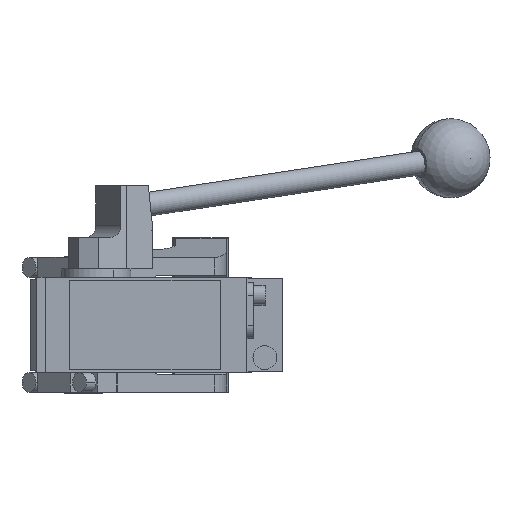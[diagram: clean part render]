
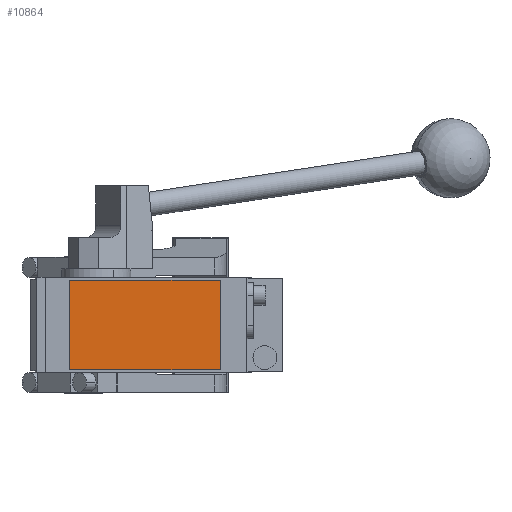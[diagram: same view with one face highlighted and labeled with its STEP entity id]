
A CAD part, front view. The second image highlights one B-rep face of the part: STEP entity #10864.
In plain terms, the highlighted planar face has unit normal (0, -1, 0).
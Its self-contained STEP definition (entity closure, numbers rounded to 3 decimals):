
#549 = CARTESIAN_POINT ( 'NONE',  ( 0., -280.5, 0. ) ) ;
#561 = ORIENTED_EDGE ( 'NONE', *, *, #14549, .T. ) ;
#624 = DIRECTION ( 'NONE',  ( 0., -1., 0. ) ) ;
#667 = CARTESIAN_POINT ( 'NONE',  ( 69., -280.5, 22.5 ) ) ;
#1298 = EDGE_CURVE ( 'NONE', #8588, #12518, #7360, .T. ) ;
#1519 = DIRECTION ( 'NONE',  ( 0., 0., 1. ) ) ;
#1668 = CARTESIAN_POINT ( 'NONE',  ( -7., -280.5, -22.5 ) ) ;
#2164 = EDGE_CURVE ( 'NONE', #12915, #8588, #11080, .T. ) ;
#2634 = EDGE_LOOP ( 'NONE', ( #8708, #4783, #561, #8837 ) ) ;
#2659 = AXIS2_PLACEMENT_3D ( 'NONE', #549, #624, #10970 ) ;
#2729 = CARTESIAN_POINT ( 'NONE',  ( 69., -280.5, -22.5 ) ) ;
#2974 = VERTEX_POINT ( 'NONE', #667 ) ;
#3957 = VECTOR ( 'NONE', #4174, 1000. ) ;
#4174 = DIRECTION ( 'NONE',  ( 0., 0., -1. ) ) ;
#4184 = CARTESIAN_POINT ( 'NONE',  ( -7., -280.5, 22.5 ) ) ;
#4254 = DIRECTION ( 'NONE',  ( -1., 0., 0. ) ) ;
#4783 = ORIENTED_EDGE ( 'NONE', *, *, #1298, .T. ) ;
#4921 = EDGE_CURVE ( 'NONE', #2974, #12915, #14628, .T. ) ;
#6083 = CARTESIAN_POINT ( 'NONE',  ( 69., -280.5, 22.5 ) ) ;
#6336 = FACE_OUTER_BOUND ( 'NONE', #2634, .T. ) ;
#6389 = VECTOR ( 'NONE', #1519, 1000. ) ;
#6706 = CARTESIAN_POINT ( 'NONE',  ( -7., -280.5, -22.5 ) ) ;
#7290 = LINE ( 'NONE', #6083, #6389 ) ;
#7360 = LINE ( 'NONE', #1668, #14312 ) ;
#7621 = VECTOR ( 'NONE', #4254, 1000. ) ;
#8588 = VERTEX_POINT ( 'NONE', #6706 ) ;
#8708 = ORIENTED_EDGE ( 'NONE', *, *, #2164, .T. ) ;
#8837 = ORIENTED_EDGE ( 'NONE', *, *, #4921, .T. ) ;
#10864 = ADVANCED_FACE ( 'NONE', ( #6336 ), #12253, .T. ) ;
#10970 = DIRECTION ( 'NONE',  ( 0., 0., -1. ) ) ;
#11080 = LINE ( 'NONE', #14546, #3957 ) ;
#12253 = PLANE ( 'NONE',  #2659 ) ;
#12518 = VERTEX_POINT ( 'NONE', #2729 ) ;
#12915 = VERTEX_POINT ( 'NONE', #13998 ) ;
#13998 = CARTESIAN_POINT ( 'NONE',  ( -7., -280.5, 22.5 ) ) ;
#14312 = VECTOR ( 'NONE', #14321, 1000. ) ;
#14321 = DIRECTION ( 'NONE',  ( 1., 0., 0. ) ) ;
#14546 = CARTESIAN_POINT ( 'NONE',  ( -7., -280.5, 22.5 ) ) ;
#14549 = EDGE_CURVE ( 'NONE', #12518, #2974, #7290, .T. ) ;
#14628 = LINE ( 'NONE', #4184, #7621 ) ;
